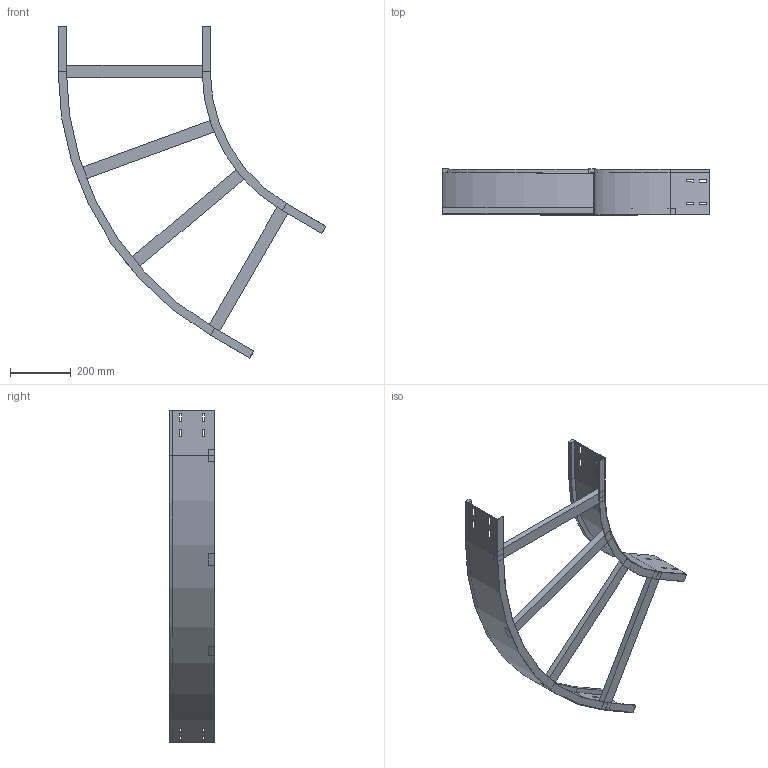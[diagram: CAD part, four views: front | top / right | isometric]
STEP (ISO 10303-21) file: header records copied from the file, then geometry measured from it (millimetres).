
FILE_DESCRIPTION (( 'STEP AP214' ), '1' );
FILE_NAME ('13J5F500.step', '2025-02-21T16:24:46', ( '' ), ( '' ), 'SwSTEP 2.0', 'SolidWorks 2023', '' );
FILE_SCHEMA (( 'AUTOMOTIVE_DESIGN' ));
Length unit declared in the file: millimetre
Products named in the file (4): LONGH.INTERNO 60°_H150_R500; TRAVERSINO_500; LONGH.ESTERNO 60°_H150_R500+500; 13J5F500
Assembly tree (6 placements, depth 2):
  13J5F500
    LONGH.INTERNO 60°_H150_R500
    LONGH.ESTERNO 60°_H150_R500+500
    TRAVERSINO_500  x4
Bounding box: 879.9 x 150 x 1091.03 mm (x, y, z)
Volume: 2776411.6 mm3; surface area: 1081615.4 mm2
Topology: 6 solids, 6 shells, 140 faces, 352 edges, 224 vertices
Faces by surface type: plane 132, cylinder 8
Entity records: 3829 total; most frequent: CARTESIAN_POINT 647, ORIENTED_EDGE 632, DIRECTION 594, EDGE_CURVE 316, LINE 300, VECTOR 300, VERTEX_POINT 200, EDGE_LOOP 154
